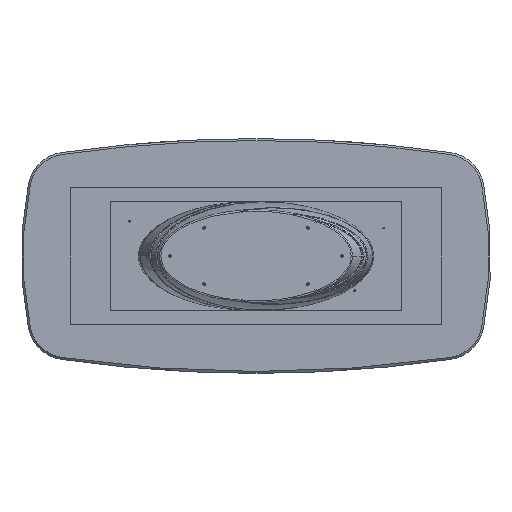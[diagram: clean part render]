
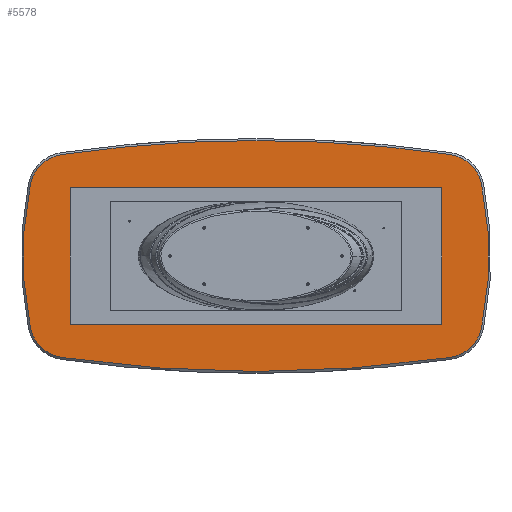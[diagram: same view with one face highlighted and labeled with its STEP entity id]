
A CAD part, front view. The second image highlights one B-rep face of the part: STEP entity #5578.
In plain terms, the highlighted planar face has unit normal (0, -1, 0).
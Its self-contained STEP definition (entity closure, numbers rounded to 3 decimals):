
#863 = CARTESIAN_POINT ( 'NONE',  ( 966.467, 65., -330.452 ) ) ;
#2049 = CARTESIAN_POINT ( 'NONE',  ( -966.467, 65., -330.452 ) ) ;
#3278 = EDGE_CURVE ( 'NONE', #4843, #20091, #21038, .T. ) ;
#3360 = ORIENTED_EDGE ( 'NONE', *, *, #11872, .T. ) ;
#3503 = AXIS2_PLACEMENT_3D ( 'NONE', #22525, #34196, #7990 ) ;
#4286 = CARTESIAN_POINT ( 'NONE',  ( 0., 65., 6350. ) ) ;
#4322 = DIRECTION ( 'NONE',  ( 0., 0., -1. ) ) ;
#4519 = VERTEX_POINT ( 'NONE', #23568 ) ;
#4601 = DIRECTION ( 'NONE',  ( 0., 0., -1. ) ) ;
#4695 = DIRECTION ( 'NONE',  ( 0., -1., 0. ) ) ;
#4843 = VERTEX_POINT ( 'NONE', #34862 ) ;
#4916 = DIRECTION ( 'NONE',  ( 0., 0., -1. ) ) ;
#5578 = ADVANCED_FACE ( 'NONE', ( #17230 ), #14361, .T. ) ;
#6147 = CARTESIAN_POINT ( 'NONE',  ( 993.671, 65., -518.495 ) ) ;
#6270 = CARTESIAN_POINT ( 'NONE',  ( -966.467, 65., 330.452 ) ) ;
#6388 = DIRECTION ( 'NONE',  ( 0., -1., 0. ) ) ;
#6409 = ORIENTED_EDGE ( 'NONE', *, *, #3278, .T. ) ;
#6677 = CARTESIAN_POINT ( 'NONE',  ( -993.671, 65., 518.495 ) ) ;
#7454 = ORIENTED_EDGE ( 'NONE', *, *, #15181, .T. ) ;
#7990 = DIRECTION ( 'NONE',  ( 0., 0., -1. ) ) ;
#8905 = ORIENTED_EDGE ( 'NONE', *, *, #35518, .T. ) ;
#9002 = AXIS2_PLACEMENT_3D ( 'NONE', #2049, #30739, #4916 ) ;
#9074 = DIRECTION ( 'NONE',  ( 0., 0., -1. ) ) ;
#9661 = DIRECTION ( 'NONE',  ( 0., -1., 0. ) ) ;
#10595 = CARTESIAN_POINT ( 'NONE',  ( 1152.594, 65., 368.62 ) ) ;
#10622 = CARTESIAN_POINT ( 'NONE',  ( -1152.594, 65., 368.62 ) ) ;
#10731 = DIRECTION ( 'NONE',  ( 0., -1., 0. ) ) ;
#10863 = CIRCLE ( 'NONE', #9002, 190. ) ;
#11752 = EDGE_LOOP ( 'NONE', ( #25313, #7454, #31764, #32038, #37362, #6409, #12003, #3360, #8905 ) ) ;
#11872 = EDGE_CURVE ( 'NONE', #37588, #17764, #32732, .T. ) ;
#12003 = ORIENTED_EDGE ( 'NONE', *, *, #22421, .T. ) ;
#13275 = DIRECTION ( 'NONE',  ( 0., 0., -1. ) ) ;
#13857 = CIRCLE ( 'NONE', #33412, 190. ) ;
#14361 = PLANE ( 'NONE',  #32027 ) ;
#15181 = EDGE_CURVE ( 'NONE', #4519, #34348, #23567, .T. ) ;
#15399 = VERTEX_POINT ( 'NONE', #10595 ) ;
#15661 = CIRCLE ( 'NONE', #28484, 190. ) ;
#16397 = CIRCLE ( 'NONE', #26171, 1835. ) ;
#16615 = CARTESIAN_POINT ( 'NONE',  ( 1152.594, 65., -368.62 ) ) ;
#17046 = DIRECTION ( 'NONE',  ( 0., 0., -1. ) ) ;
#17230 = FACE_OUTER_BOUND ( 'NONE', #11752, .T. ) ;
#17764 = VERTEX_POINT ( 'NONE', #10622 ) ;
#20085 = DIRECTION ( 'NONE',  ( 0., -1., 0. ) ) ;
#20091 = VERTEX_POINT ( 'NONE', #36561 ) ;
#20451 = DIRECTION ( 'NONE',  ( 0., 0., -1. ) ) ;
#20775 = EDGE_CURVE ( 'NONE', #34348, #21944, #15661, .T. ) ;
#21038 = CIRCLE ( 'NONE', #29577, 6940. ) ;
#21199 = AXIS2_PLACEMENT_3D ( 'NONE', #32592, #6388, #9074 ) ;
#21944 = VERTEX_POINT ( 'NONE', #16615 ) ;
#22421 = EDGE_CURVE ( 'NONE', #20091, #37588, #31573, .T. ) ;
#22525 = CARTESIAN_POINT ( 'NONE',  ( -645., 65., 0. ) ) ;
#23567 = CIRCLE ( 'NONE', #31515, 6940. ) ;
#23568 = CARTESIAN_POINT ( 'NONE',  ( -993.671, 65., -518.495 ) ) ;
#24040 = DIRECTION ( 'NONE',  ( 0., 0., -1. ) ) ;
#24540 = EDGE_CURVE ( 'NONE', #15399, #4843, #13857, .T. ) ;
#25043 = VERTEX_POINT ( 'NONE', #30219 ) ;
#25162 = CARTESIAN_POINT ( 'NONE',  ( 966.467, 65., 330.452 ) ) ;
#25313 = ORIENTED_EDGE ( 'NONE', *, *, #26264, .T. ) ;
#25651 = CARTESIAN_POINT ( 'NONE',  ( 160.734, 65., -165.226 ) ) ;
#26000 = AXIS2_PLACEMENT_3D ( 'NONE', #6270, #26545, #24040 ) ;
#26171 = AXIS2_PLACEMENT_3D ( 'NONE', #26206, #26960, #20451 ) ;
#26206 = CARTESIAN_POINT ( 'NONE',  ( 645., 65., 0. ) ) ;
#26264 = EDGE_CURVE ( 'NONE', #25043, #4519, #10863, .T. ) ;
#26545 = DIRECTION ( 'NONE',  ( 0., -1., 0. ) ) ;
#26960 = DIRECTION ( 'NONE',  ( 0., -1., 0. ) ) ;
#27627 = DIRECTION ( 'NONE',  ( 0., -1., 0. ) ) ;
#28484 = AXIS2_PLACEMENT_3D ( 'NONE', #863, #9661, #13275 ) ;
#29577 = AXIS2_PLACEMENT_3D ( 'NONE', #31186, #10731, #4601 ) ;
#30219 = CARTESIAN_POINT ( 'NONE',  ( -1152.594, 65., -368.62 ) ) ;
#30739 = DIRECTION ( 'NONE',  ( 0., -1., 0. ) ) ;
#31186 = CARTESIAN_POINT ( 'NONE',  ( 0., 65., -6350. ) ) ;
#31515 = AXIS2_PLACEMENT_3D ( 'NONE', #4286, #27627, #32806 ) ;
#31573 = CIRCLE ( 'NONE', #21199, 6940. ) ;
#31764 = ORIENTED_EDGE ( 'NONE', *, *, #20775, .T. ) ;
#32027 = AXIS2_PLACEMENT_3D ( 'NONE', #25651, #20085, #17046 ) ;
#32038 = ORIENTED_EDGE ( 'NONE', *, *, #36209, .T. ) ;
#32592 = CARTESIAN_POINT ( 'NONE',  ( 0., 65., -6350. ) ) ;
#32732 = CIRCLE ( 'NONE', #26000, 190. ) ;
#32806 = DIRECTION ( 'NONE',  ( 0., 0., -1. ) ) ;
#33412 = AXIS2_PLACEMENT_3D ( 'NONE', #25162, #4695, #4322 ) ;
#33444 = CIRCLE ( 'NONE', #3503, 1835. ) ;
#34196 = DIRECTION ( 'NONE',  ( 0., -1., 0. ) ) ;
#34348 = VERTEX_POINT ( 'NONE', #6147 ) ;
#34862 = CARTESIAN_POINT ( 'NONE',  ( 993.671, 65., 518.495 ) ) ;
#35518 = EDGE_CURVE ( 'NONE', #17764, #25043, #16397, .T. ) ;
#36209 = EDGE_CURVE ( 'NONE', #21944, #15399, #33444, .T. ) ;
#36561 = CARTESIAN_POINT ( 'NONE',  ( 0., 65., 590. ) ) ;
#37362 = ORIENTED_EDGE ( 'NONE', *, *, #24540, .T. ) ;
#37588 = VERTEX_POINT ( 'NONE', #6677 ) ;
